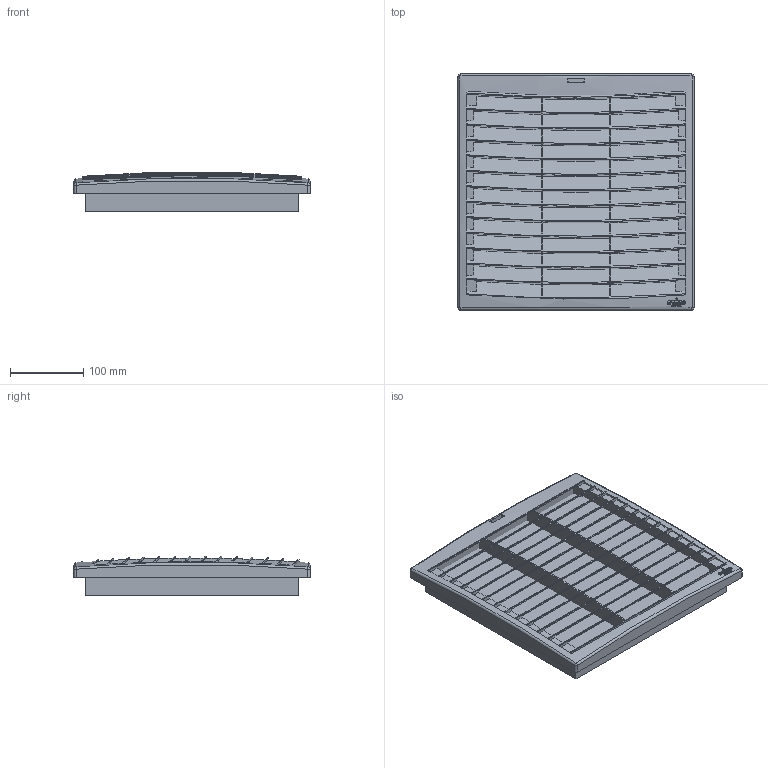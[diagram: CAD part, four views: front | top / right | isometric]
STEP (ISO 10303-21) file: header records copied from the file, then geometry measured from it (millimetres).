
FILE_DESCRIPTION (( 'STEP AP214' ), '1' );
FILE_NAME ('FPO_118_291x291_EPLAN_10_2015.STEP', '2015-10-15T12:59:08', ( '' ), ( '' ), 'SwSTEP 2.0', 'SolidWorks 2015', '' );
FILE_SCHEMA (( 'AUTOMOTIVE_DESIGN' ));
Length unit declared in the file: millimetre
Products named in the file (1): FPO_118_291x291_EPLAN_10_2015
Bounding box: 322 x 322 x 54.13 mm (x, y, z)
Surface area: 446312.7 mm2 (no closed solid volume)
Topology: 0 solids, 18 shells, 232 faces, 1231 edges, 924 vertices
Faces by surface type: plane 111, sphere 78, bspline 29, cylinder 8, torus 6
Entity records: 16269 total; most frequent: CARTESIAN_POINT 4293, DIRECTION 1977, ORIENTED_EDGE 1832, EDGE_CURVE 1227, VERTEX_POINT 924, AXIS2_PLACEMENT_3D 728, CIRCLE 524, VECTOR 521
